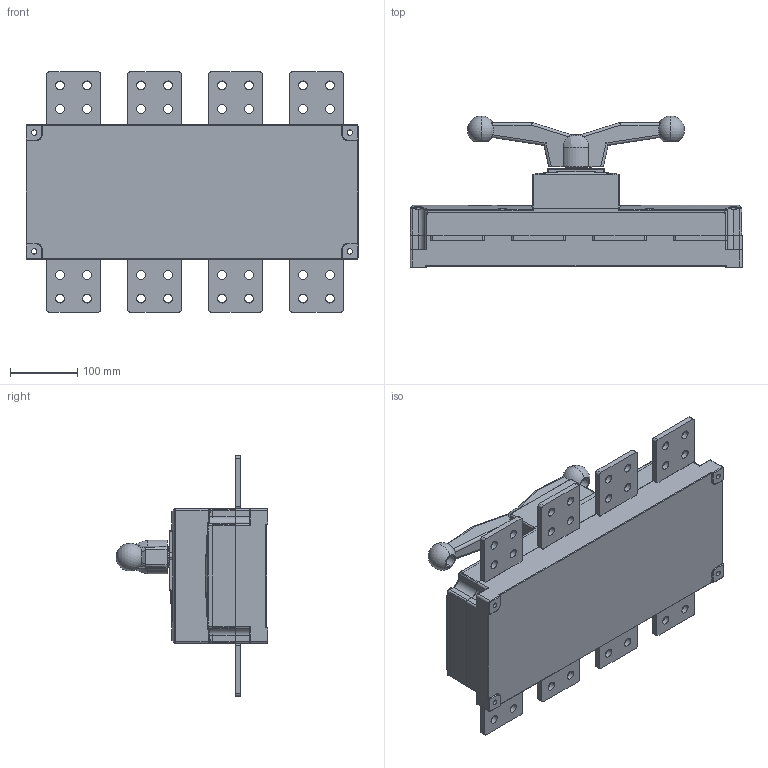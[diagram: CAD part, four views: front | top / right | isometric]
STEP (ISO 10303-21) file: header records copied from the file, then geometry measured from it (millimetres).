
FILE_DESCRIPTION((''),'2;1');
FILE_NAME('ASM0003_ASM','2024-03-18T',('zhuanghy'),(''),'CREO PARAMETRIC BY PTC INC, 2018070','CREO PARAMETRIC BY PTC INC, 2018070','');
FILE_SCHEMA(('AUTOMOTIVE_DESIGN { 1 0 10303 214 1 1 1 1 }'));
Products named in the file (24): ASM0020_ASM_ASM_1_1_2_3_4; ASM0019_ASM_ASM_1_1_2_3_4_ASM; ASM0018_ASM_ASM_1_1_2_3_4_ASM; ASM0017_ASM_ASM_1_1_2_3_4_ASM; ASM0016_ASM_ASM_1_1_2_3_4_ASM; ASM0015_ASM_ASM_1_1_2_3_4_ASM; NH40-1000_ASM_ASM_1_1_2_3_4_ASM; NH40-1000_1600_202107_1_1_2_3_4; NH40-1000-3_ASM_1_ASM_ASM_ASM_3_ASM; NH40-1250-3_ASM_ASM_ASM_1_ASM_2_ASM; NH40-1250-3_ASM_ASM_1_ASM_1_1_ASM; NH40-1250-3_2020_10__ASM_1_AS_1_ASM; NH40-1250-3_3P_202104_ASM_1_1_ASM; NH40-1000-3_3P_202010_ASM_1_1_4_ASM; PRT0074_1; PRT0075_1; PRT0076_1; PRT0077_1; PRT0078_1; ASM0015_ASM_ASM_1_1_2_3_4_5_6_ASM; NH40-1600-4_ASM_ASM_1_ASM; NH40-1600-4_ASM_1_ASM; NH40-1600-4_4P_202010_ASM; ASM0003_ASM
Assembly tree (30 placements, depth 9):
  ASM0003_ASM
    NH40-1000-3_3P_202010_ASM_1_1_4_ASM
      NH40-1000_ASM_ASM_1_1_2_3_4_ASM
        ASM0015_ASM_ASM_1_1_2_3_4_ASM
          ASM0016_ASM_ASM_1_1_2_3_4_ASM
            ASM0017_ASM_ASM_1_1_2_3_4_ASM
              ASM0018_ASM_ASM_1_1_2_3_4_ASM
                ASM0019_ASM_ASM_1_1_2_3_4_ASM
                  ASM0020_ASM_ASM_1_1_2_3_4
      NH40-1000_1600_202107_1_1_2_3_4
      NH40-1250-3_3P_202104_ASM_1_1_ASM
        NH40-1250-3_2020_10__ASM_1_AS_1_ASM
          NH40-1250-3_ASM_ASM_1_ASM_1_1_ASM
            NH40-1250-3_ASM_ASM_ASM_1_ASM_2_ASM
              NH40-1000-3_ASM_1_ASM_ASM_ASM_3_ASM
    NH40-1600-4_4P_202010_ASM
      NH40-1600-4_ASM_1_ASM
        NH40-1600-4_ASM_ASM_1_ASM
          ASM0015_ASM_ASM_1_1_2_3_4_5_6_ASM
            PRT0074_1
            PRT0075_1
            PRT0076_1
            PRT0077_1
            PRT0078_1  x8
Bounding box: 492 x 225 x 356 mm (x, y, z)
Volume: 12766503.4 mm3; surface area: 1450002.2 mm2
Topology: 13 solids, 16 shells, 3016 faces, 7780 edges, 4578 vertices
Faces by surface type: cylinder 1322, plane 1170, sphere 250, torus 144, bspline 96, cone 34
Entity records: 95359 total; most frequent: CARTESIAN_POINT 28755, ORIENTED_EDGE 13963, DIRECTION 13520, EDGE_CURVE 6986, AXIS2_PLACEMENT_3D 4745, VERTEX_POINT 4214, VECTOR 4030, LINE 4030
